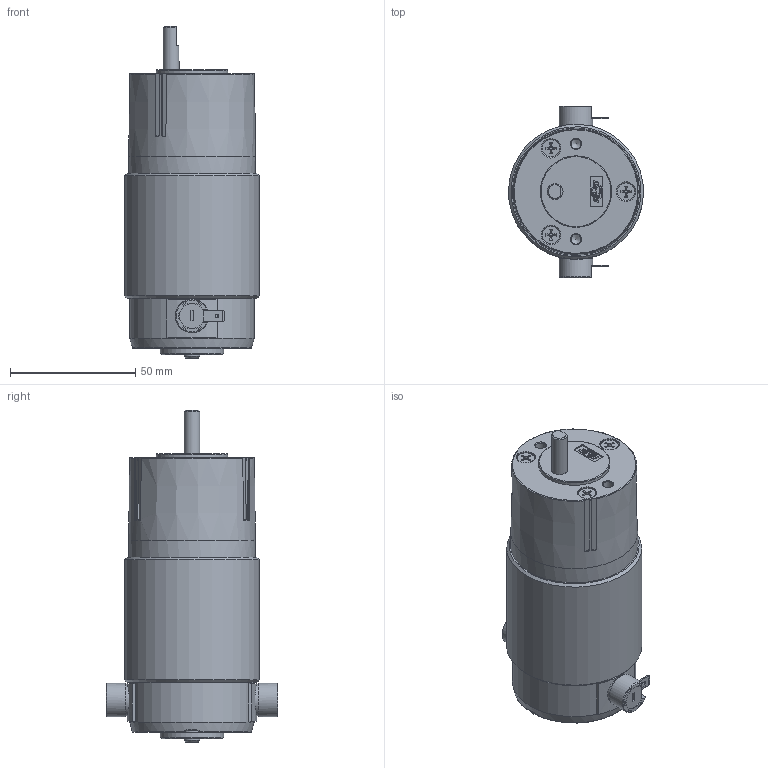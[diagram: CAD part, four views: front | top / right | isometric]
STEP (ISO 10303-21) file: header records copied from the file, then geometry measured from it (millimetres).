
FILE_DESCRIPTION((''),'2;1');
FILE_NAME('Z:\4_DC\새 폴더\RS5 SERIES\RS51ㅁㅁTㅁ.stp','2015-03-25T17:19:16',('kdhkdh'),(''),'Autodesk Inventor 2013','Autodesk Inventor 2013','');
FILE_SCHEMA(('AUTOMOTIVE_DESIGN { 1 0 10303 214 1 1 1 1 }'));
Length unit declared in the file: millimetre
Products named in the file (1): 부품2
Bounding box: 53.91 x 68.58 x 132.75 mm (x, y, z)
Volume: 237486 mm3; surface area: 24901.9 mm2
Topology: 1 solids, 3 shells, 490 faces, 1297 edges, 849 vertices
Faces by surface type: plane 279, cylinder 136, cone 49, torus 24, bspline 2
Full cylindrical faces by diameter (mm): 1.3 x2, 3 x3, 3.962 x2, 4 x2, 4.2 x2, 6.34 x2, 6.9 x3, 7.8 x3, 8 x2, 13.4 x2, 25.4 x1, 28.575 x1, 49.6 x1, 50.8 x1, 53.98 x1
Entity records: 15604 total; most frequent: CARTESIAN_POINT 3861, ORIENTED_EDGE 2424, DIRECTION 2336, EDGE_CURVE 1212, AXIS2_PLACEMENT_3D 836, VERTEX_POINT 819, VECTOR 664, LINE 664
